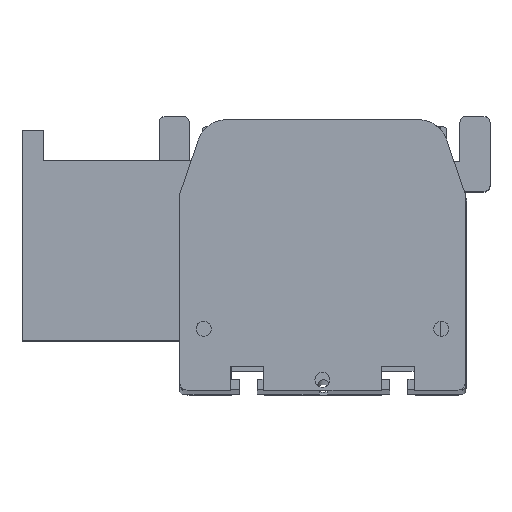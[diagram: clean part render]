
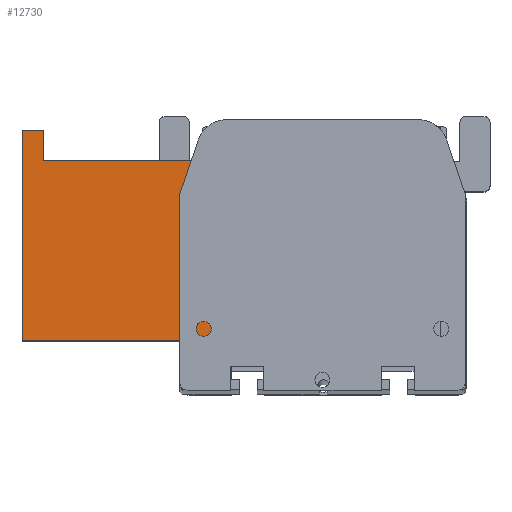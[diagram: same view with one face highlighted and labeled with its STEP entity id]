
A CAD part, top view. The second image highlights one B-rep face of the part: STEP entity #12730.
In plain terms, the highlighted planar face has unit normal (0, 0, 1) as drawn and (0, 1, 0) by its records, which use the part's own axes.
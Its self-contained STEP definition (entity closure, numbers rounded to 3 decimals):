
#943 = DIRECTION ( 'NONE',  ( 0., -1., 0. ) ) ;
#1623 = CARTESIAN_POINT ( 'NONE',  ( -35., 35., 70. ) ) ;
#2674 = VECTOR ( 'NONE', #14374, 1000. ) ;
#2887 = VERTEX_POINT ( 'NONE', #28228 ) ;
#3218 = LINE ( 'NONE', #27146, #28903 ) ;
#3613 = EDGE_CURVE ( 'NONE', #21315, #21074, #19702, .T. ) ;
#3772 = CARTESIAN_POINT ( 'NONE',  ( 35., 35., 70. ) ) ;
#5478 = AXIS2_PLACEMENT_3D ( 'NONE', #31660, #943, #18871 ) ;
#6195 = ORIENTED_EDGE ( 'NONE', *, *, #3613, .F. ) ;
#6300 = CARTESIAN_POINT ( 'NONE',  ( -25., 35., 55. ) ) ;
#6795 = LINE ( 'NONE', #17126, #26481 ) ;
#7270 = CARTESIAN_POINT ( 'NONE',  ( 35., 35., 0. ) ) ;
#7436 = DIRECTION ( 'NONE',  ( -1., 0., 0. ) ) ;
#7578 = VERTEX_POINT ( 'NONE', #28984 ) ;
#7842 = ORIENTED_EDGE ( 'NONE', *, *, #31365, .F. ) ;
#7955 = EDGE_CURVE ( 'NONE', #2887, #7578, #18063, .T. ) ;
#8910 = DIRECTION ( 'NONE',  ( 0., 0., -1. ) ) ;
#9459 = ORIENTED_EDGE ( 'NONE', *, *, #14104, .T. ) ;
#9462 = LINE ( 'NONE', #1623, #2674 ) ;
#9643 = VECTOR ( 'NONE', #23237, 1000. ) ;
#10638 = VERTEX_POINT ( 'NONE', #20812 ) ;
#11745 = DIRECTION ( 'NONE',  ( -1., 0., 0. ) ) ;
#12046 = VECTOR ( 'NONE', #21945, 1000. ) ;
#12467 = CARTESIAN_POINT ( 'NONE',  ( -35., 35., 0. ) ) ;
#12513 = ORIENTED_EDGE ( 'NONE', *, *, #32406, .T. ) ;
#12730 = ADVANCED_FACE ( 'NONE', ( #17766 ), #13679, .F. ) ;
#12739 = ORIENTED_EDGE ( 'NONE', *, *, #31302, .F. ) ;
#13207 = ORIENTED_EDGE ( 'NONE', *, *, #7955, .T. ) ;
#13679 = PLANE ( 'NONE',  #5478 ) ;
#14082 = CARTESIAN_POINT ( 'NONE',  ( -35., 35., 55. ) ) ;
#14104 = EDGE_CURVE ( 'NONE', #28638, #10638, #20864, .T. ) ;
#14374 = DIRECTION ( 'NONE',  ( 0., 0., -1. ) ) ;
#15774 = LINE ( 'NONE', #3772, #28669 ) ;
#17126 = CARTESIAN_POINT ( 'NONE',  ( -35., 35., 60. ) ) ;
#17622 = CARTESIAN_POINT ( 'NONE',  ( 35., 35., 70. ) ) ;
#17766 = FACE_OUTER_BOUND ( 'NONE', #26468, .T. ) ;
#18063 = LINE ( 'NONE', #20645, #9643 ) ;
#18871 = DIRECTION ( 'NONE',  ( 1., 0., 0. ) ) ;
#19372 = VECTOR ( 'NONE', #29430, 1000. ) ;
#19702 = LINE ( 'NONE', #29459, #12046 ) ;
#20645 = CARTESIAN_POINT ( 'NONE',  ( 28., 35., 60. ) ) ;
#20812 = CARTESIAN_POINT ( 'NONE',  ( -35., 35., 0. ) ) ;
#20864 = LINE ( 'NONE', #12467, #27709 ) ;
#21074 = VERTEX_POINT ( 'NONE', #14082 ) ;
#21315 = VERTEX_POINT ( 'NONE', #30589 ) ;
#21793 = EDGE_CURVE ( 'NONE', #21074, #10638, #9462, .T. ) ;
#21945 = DIRECTION ( 'NONE',  ( -1., 0., 0. ) ) ;
#22707 = CARTESIAN_POINT ( 'NONE',  ( -25., 35., 60. ) ) ;
#22769 = ORIENTED_EDGE ( 'NONE', *, *, #21793, .F. ) ;
#23237 = DIRECTION ( 'NONE',  ( 0., 0., 1. ) ) ;
#24922 = DIRECTION ( 'NONE',  ( -1., 0., 0. ) ) ;
#25558 = ORIENTED_EDGE ( 'NONE', *, *, #31850, .T. ) ;
#26219 = LINE ( 'NONE', #6300, #19372 ) ;
#26468 = EDGE_LOOP ( 'NONE', ( #6195, #12513, #7842, #13207, #12739, #25558, #9459, #22769 ) ) ;
#26481 = VECTOR ( 'NONE', #24922, 1000. ) ;
#26694 = VERTEX_POINT ( 'NONE', #22707 ) ;
#27146 = CARTESIAN_POINT ( 'NONE',  ( -35., 35., 70. ) ) ;
#27709 = VECTOR ( 'NONE', #7436, 1000. ) ;
#28158 = VERTEX_POINT ( 'NONE', #17622 ) ;
#28228 = CARTESIAN_POINT ( 'NONE',  ( 28., 35., 60. ) ) ;
#28638 = VERTEX_POINT ( 'NONE', #7270 ) ;
#28669 = VECTOR ( 'NONE', #8910, 1000. ) ;
#28903 = VECTOR ( 'NONE', #11745, 1000. ) ;
#28984 = CARTESIAN_POINT ( 'NONE',  ( 28., 35., 70. ) ) ;
#29430 = DIRECTION ( 'NONE',  ( 0., 0., 1. ) ) ;
#29459 = CARTESIAN_POINT ( 'NONE',  ( -35., 35., 55. ) ) ;
#30589 = CARTESIAN_POINT ( 'NONE',  ( -25., 35., 55. ) ) ;
#31302 = EDGE_CURVE ( 'NONE', #28158, #7578, #3218, .T. ) ;
#31365 = EDGE_CURVE ( 'NONE', #2887, #26694, #6795, .T. ) ;
#31660 = CARTESIAN_POINT ( 'NONE',  ( -35., 35., 70. ) ) ;
#31850 = EDGE_CURVE ( 'NONE', #28158, #28638, #15774, .T. ) ;
#32406 = EDGE_CURVE ( 'NONE', #21315, #26694, #26219, .T. ) ;
